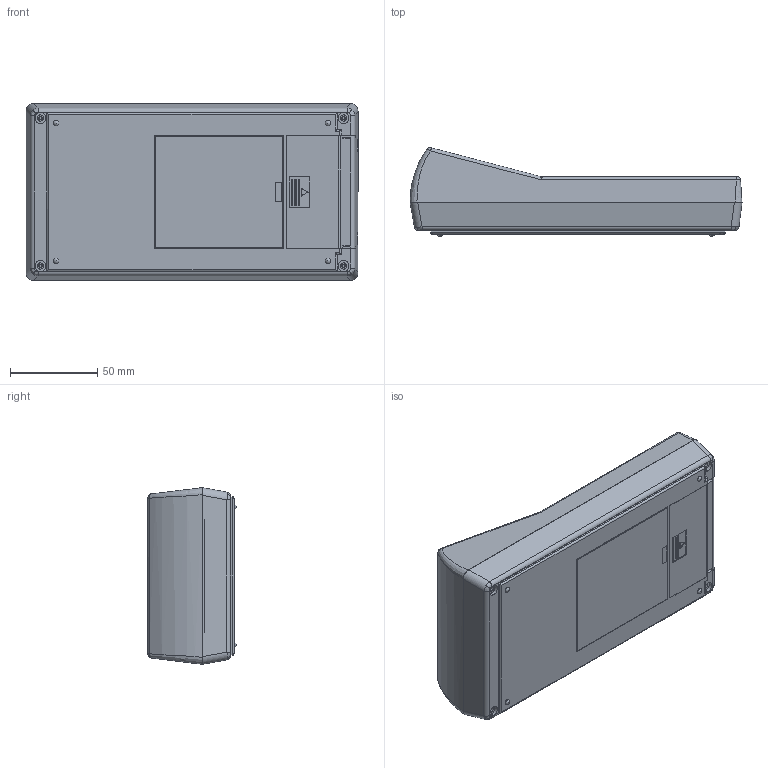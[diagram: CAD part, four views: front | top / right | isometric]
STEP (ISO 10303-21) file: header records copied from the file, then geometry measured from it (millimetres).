
FILE_DESCRIPTION (( 'STEP AP214' ), '1' );
FILE_NAME ('90-52-2A-R.STEP', '2019-12-01T15:31:53', ( 'Rudy' ), ( '' ), 'SwSTEP 2.0', 'SolidWorks 2014', '' );
FILE_SCHEMA (( 'AUTOMOTIVE_DESIGN' ));
Length unit declared in the file: millimetre
Products named in the file (5): 2AAdoor; 100 bessel; 100 Top Angled LCD; 100-02 BOT-2AA; 90-52-2A-R
Assembly tree (4 placements, depth 2):
  90-52-2A-R
    100-02 BOT-2AA
    100 Top Angled LCD
    100 bessel
    2AAdoor
Bounding box: 190.6 x 50.79 x 101.4 mm (x, y, z)
Volume: 122801.3 mm3; surface area: 131141.1 mm2
Topology: 4 solids, 4 shells, 687 faces, 1866 edges, 1208 vertices
Faces by surface type: plane 465, cylinder 158, cone 24, bspline 24, torus 12, sphere 4
Entity records: 22848 total; most frequent: CARTESIAN_POINT 5437, ORIENTED_EDGE 3696, DIRECTION 3347, EDGE_CURVE 1848, VECTOR 1393, LINE 1393, VERTEX_POINT 1200, AXIS2_PLACEMENT_3D 977
